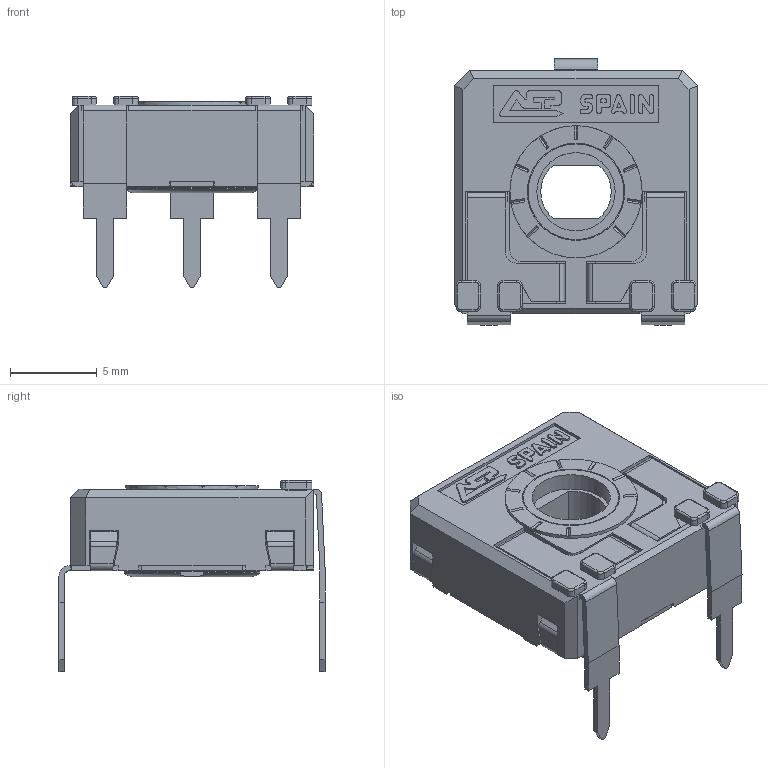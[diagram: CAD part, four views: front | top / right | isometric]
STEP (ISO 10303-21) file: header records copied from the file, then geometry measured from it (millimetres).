
FILE_DESCRIPTION(/* description */ (''),/* implementation_level */ '2;1');
FILE_NAME(/* name */ 'C:\Users\CEM\Desktop\ENVIAR\TRANSICION 3D CATALOGOS\RS14NV15.stp',/* time_stamp */ '2025-12-10T11:09:45+01:00',/* author */ ('CEM'),/* organization */ (''),/* preprocessor_version */ 'ST-DEVELOPER v16.13',/* originating_system */ 'Autodesk Inventor 2018',/* authorisation */ '');
FILE_SCHEMA (('AUTOMOTIVE_DESIGN { 1 0 10303 214 3 1 1 }'));
Length unit declared in the file: millimetre
Products named in the file (1): CARCASA CA14 PGA
Bounding box: 14 x 15.3 x 11 mm (x, y, z)
Volume: 527.4 mm3; surface area: 1469.7 mm2
Topology: 1 solids, 1 shells, 673 faces, 1894 edges, 1218 vertices
Faces by surface type: plane 497, cylinder 139, torus 23, bspline 8, cone 6
Full cylindrical faces by diameter (mm): 4.5 x1, 5.5 x1, 5.6 x1, 5.752 x1, 6.8 x1, 7.6 x1
Entity records: 21791 total; most frequent: CARTESIAN_POINT 3980, ORIENTED_EDGE 3760, DIRECTION 3548, EDGE_CURVE 1880, LINE 1488, VECTOR 1488, VERTEX_POINT 1214, AXIS2_PLACEMENT_3D 1030
